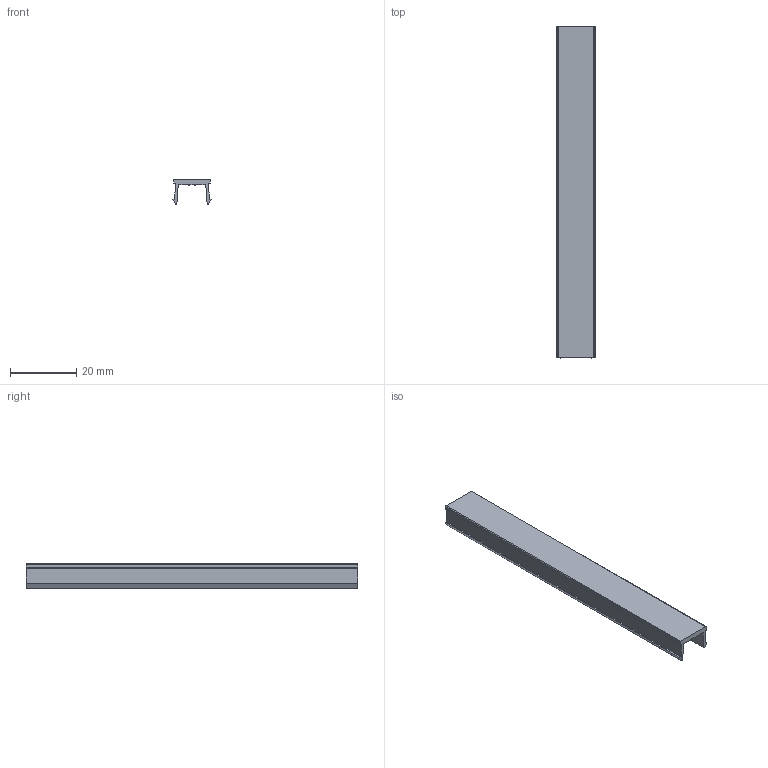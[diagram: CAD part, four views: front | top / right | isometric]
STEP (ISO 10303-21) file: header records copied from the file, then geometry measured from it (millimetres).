
FILE_DESCRIPTION (( 'STEP AP203' ), '1' );
FILE_NAME ('0110APSCH.STEP', '2024-09-02T13:39:27', ( 'Windows-Benutzer' ), ( '' ), 'SwSTEP 2.0', 'SolidWorks 2024', '' );
FILE_SCHEMA (( 'CONFIG_CONTROL_DESIGN' ));
Length unit declared in the file: millimetre
Products named in the file (1): 0110APSCH
Bounding box: 11.5 x 100 x 7.5 mm (x, y, z)
Volume: 2612.8 mm3; surface area: 4981.1 mm2
Topology: 1 solids, 1 shells, 38 faces, 108 edges, 72 vertices
Faces by surface type: cylinder 20, plane 18
Entity records: 1329 total; most frequent: DIRECTION 226, CARTESIAN_POINT 219, ORIENTED_EDGE 216, EDGE_CURVE 108, AXIS2_PLACEMENT_3D 79, VERTEX_POINT 72, LINE 68, VECTOR 68
